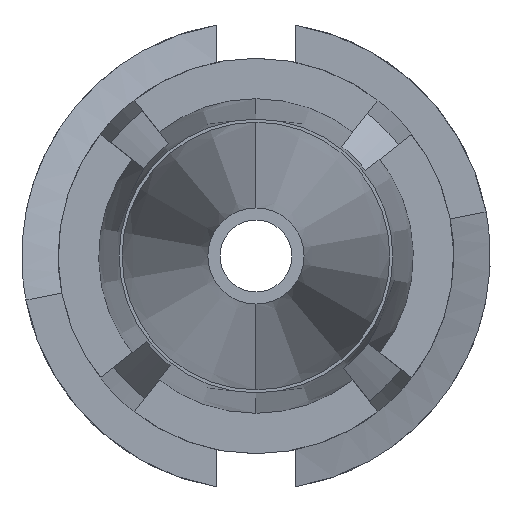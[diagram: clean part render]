
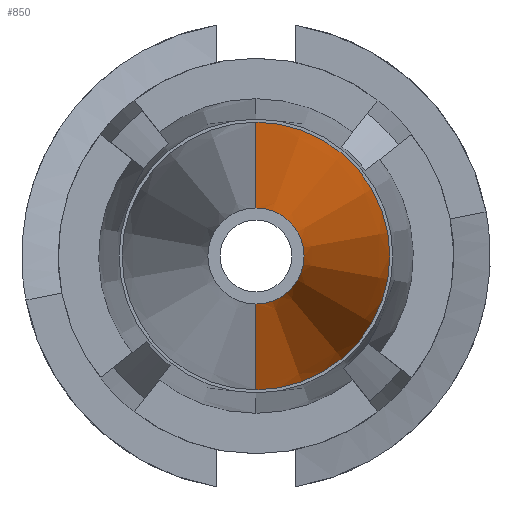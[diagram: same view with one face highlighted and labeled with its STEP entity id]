
A CAD part, left-side view. The second image highlights one B-rep face of the part: STEP entity #850.
In plain terms, the highlighted conical face has half-angle 4.593 degrees and reference radius 2.2 mm.
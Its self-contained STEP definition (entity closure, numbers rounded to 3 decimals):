
#8 = ORIENTED_EDGE ( 'NONE', *, *, #1462, .F. ) ;
#19 = CONICAL_SURFACE ( 'NONE', #528, 2.2, 0.08 ) ;
#59 = CARTESIAN_POINT ( 'NONE',  ( -14., 0., 2.2 ) ) ;
#120 = CARTESIAN_POINT ( 'NONE',  ( -14., 0., -2.2 ) ) ;
#152 = CARTESIAN_POINT ( 'NONE',  ( -31.55, 0., 0.79 ) ) ;
#158 = DIRECTION ( 'NONE',  ( 1., 0., 0. ) ) ;
#185 = VERTEX_POINT ( 'NONE', #190 ) ;
#190 = CARTESIAN_POINT ( 'NONE',  ( -31.55, 0., -0.79 ) ) ;
#222 = DIRECTION ( 'NONE',  ( 0., 0., -1. ) ) ;
#264 = ORIENTED_EDGE ( 'NONE', *, *, #1020, .T. ) ;
#283 = CIRCLE ( 'NONE', #525, 0.79 ) ;
#305 = VERTEX_POINT ( 'NONE', #59 ) ;
#324 = EDGE_CURVE ( 'NONE', #305, #778, #1670, .T. ) ;
#416 = DIRECTION ( 'NONE',  ( 0., 0., -1. ) ) ;
#506 = DIRECTION ( 'NONE',  ( 0., 0., -1. ) ) ;
#524 = AXIS2_PLACEMENT_3D ( 'NONE', #925, #1509, #506 ) ;
#525 = AXIS2_PLACEMENT_3D ( 'NONE', #1658, #630, #222 ) ;
#528 = AXIS2_PLACEMENT_3D ( 'NONE', #1016, #158, #416 ) ;
#553 = VERTEX_POINT ( 'NONE', #152 ) ;
#572 = ORIENTED_EDGE ( 'NONE', *, *, #324, .F. ) ;
#630 = DIRECTION ( 'NONE',  ( 1., 0., 0. ) ) ;
#662 = CARTESIAN_POINT ( 'NONE',  ( -14., 0., 2.2 ) ) ;
#673 = EDGE_CURVE ( 'NONE', #553, #185, #283, .T. ) ;
#774 = ORIENTED_EDGE ( 'NONE', *, *, #673, .T. ) ;
#778 = VERTEX_POINT ( 'NONE', #120 ) ;
#850 = ADVANCED_FACE ( 'NONE', ( #1298 ), #19, .T. ) ;
#925 = CARTESIAN_POINT ( 'NONE',  ( -14., 0., 0. ) ) ;
#937 = LINE ( 'NONE', #1786, #1039 ) ;
#1016 = CARTESIAN_POINT ( 'NONE',  ( -14., 0., 0. ) ) ;
#1020 = EDGE_CURVE ( 'NONE', #185, #778, #937, .T. ) ;
#1039 = VECTOR ( 'NONE', #1650, 1000. ) ;
#1113 = LINE ( 'NONE', #662, #1565 ) ;
#1298 = FACE_OUTER_BOUND ( 'NONE', #1563, .T. ) ;
#1462 = EDGE_CURVE ( 'NONE', #553, #305, #1113, .T. ) ;
#1509 = DIRECTION ( 'NONE',  ( 1., 0., 0. ) ) ;
#1563 = EDGE_LOOP ( 'NONE', ( #8, #774, #264, #572 ) ) ;
#1565 = VECTOR ( 'NONE', #1802, 1000. ) ;
#1650 = DIRECTION ( 'NONE',  ( 0.997, 0., -0.08 ) ) ;
#1658 = CARTESIAN_POINT ( 'NONE',  ( -31.55, 0., 0. ) ) ;
#1670 = CIRCLE ( 'NONE', #524, 2.2 ) ;
#1786 = CARTESIAN_POINT ( 'NONE',  ( -14., 0., -2.2 ) ) ;
#1802 = DIRECTION ( 'NONE',  ( 0.997, 0., 0.08 ) ) ;
